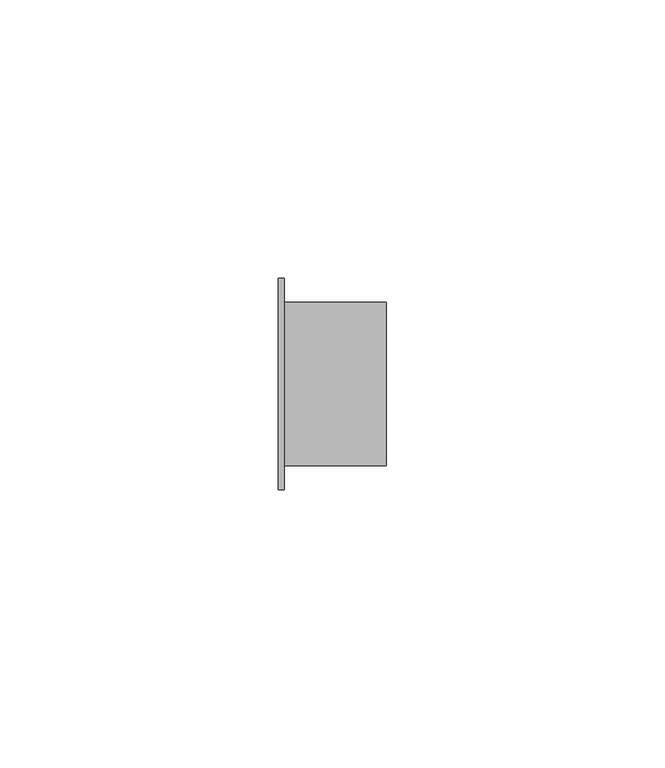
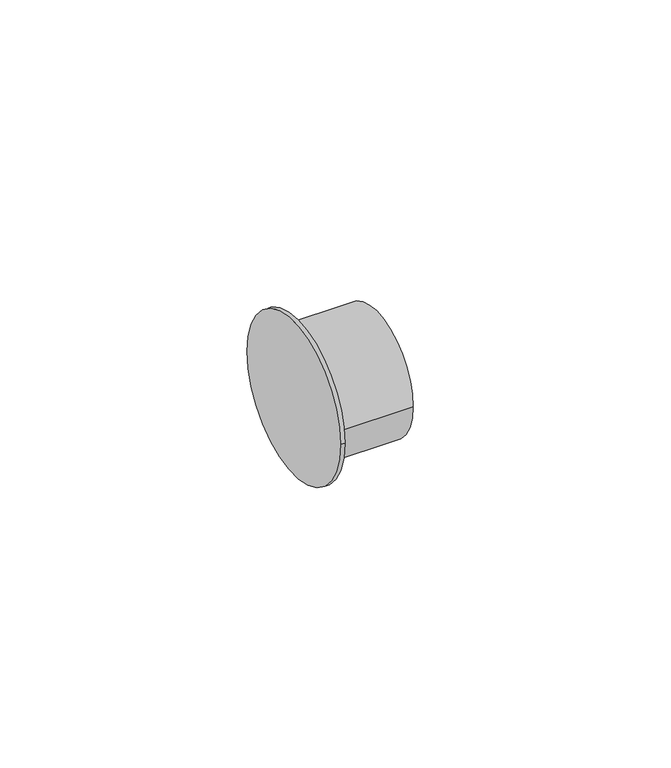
"""IFC4 building model written with IfcOpenShell, lengths in millimetres: pipe fitting geometry, Bucha de redução reta - Soldada - CU : Padrão."""

from ifc_helpers import new_model, si_unit, frame, origin, place, context, project, spatial, circle_curve, source, transform, mapped, element, save
from ifc_brep_helpers import plane_surface, cylinder_surface, advanced_brep


def pipe_fitting_8f6b33cf(model_context):
    return source(origin(), model_context, "Body", "AdvancedBrep", [
        advanced_brep(
        [(0.0, -18.95, 0.0), (0.0, 18.95, 0.0), (1.0, -18.95, 0.0), (1.0, 18.95, 0.0), (1.0, -14.7, 0.0), (1.0, 14.7, 0.0), (19.4, -14.7, 0.0), (19.4, 14.7, 0.0)],
        [
            (0, 1, circle_curve(frame((0.0, 0.0, 0.0), z_axis=(-1.0, 0.0, 0.0), x_axis=(0.0, 1.0, 0.0)), 18.95)),
            (1, 0, circle_curve(frame((0.0, 0.0, 0.0), z_axis=(-1.0, 0.0, 0.0), x_axis=(0.0, 1.0, 0.0)), 18.95)),
            (2, 3, circle_curve(frame((1.0, 0.0, 0.0), z_axis=(1.0, 0.0, 0.0), x_axis=(0.0, 1.0, 0.0)), 18.95)),
            (3, 2, circle_curve(frame((1.0, 0.0, 0.0), z_axis=(1.0, 0.0, 0.0), x_axis=(0.0, 1.0, 0.0)), 18.95)),
            (4, 5, circle_curve(frame((1.0, 0.0, 0.0), z_axis=(-1.0, 0.0, 0.0), x_axis=(0.0, 1.0, 0.0)), 14.7)),
            (5, 4, circle_curve(frame((1.0, 0.0, 0.0), z_axis=(-1.0, 0.0, 0.0), x_axis=(0.0, 1.0, 0.0)), 14.7)),
            (0, 2),
            (3, 1),
            (6, 7, circle_curve(frame((19.4, 0.0, 0.0), z_axis=(1.0, 0.0, 0.0), x_axis=(0.0, 1.0, 0.0)), 14.7)),
            (7, 6, circle_curve(frame((19.4, 0.0, 0.0), z_axis=(1.0, 0.0, 0.0), x_axis=(0.0, 1.0, 0.0)), 14.7)),
            (7, 5),
            (4, 6),
        ],
        [
            plane_surface(frame((0.0, 0.0, 0.0), z_axis=(-1.0, 0.0, 0.0), x_axis=(0.0, 0.0, 1.0))),
            plane_surface(frame((1.0, 0.0, 0.0), z_axis=(1.0, 0.0, 0.0), x_axis=(0.0, 0.0, 1.0))),
            cylinder_surface(frame((0.0, 0.0, 0.0), z_axis=(-1.0, 0.0, 0.0), x_axis=(0.0, 1.0, 0.0)), 18.95),
            plane_surface(frame((19.4, 0.0, 0.0), z_axis=(1.0, 0.0, 0.0), x_axis=(0.0, 0.0, 1.0))),
            cylinder_surface(frame((1.0, 0.0, 0.0), z_axis=(-1.0, 0.0, 0.0), x_axis=(0.0, 1.0, 0.0)), 14.7),
        ],
        [
            (0, [[1, 2]]),
            (1, [[3, 4], [5, 6]]),
            (2, [[-1, 7, -4, 8]]),
            (2, [[-2, -8, -3, -7]]),
            (3, [[9, 10]]),
            (4, [[-10, 11, -5, 12]]),
            (4, [[-9, -12, -6, -11]]),
        ],
    ),
    ])


if __name__ == "__main__":
    model = new_model("IFC4")
    model_context = context("Model", 3, world=origin())
    ifc_project = project(units=[si_unit("LENGTHUNIT", "METRE", prefix="MILLI")], contexts=[model_context])
    site = spatial("IfcSite", under=ifc_project)
    building = spatial("IfcBuilding", under=site)
    placement = place(None, origin())
    pipe_fitting_shape = pipe_fitting_8f6b33cf(model_context)
    element("IfcPipeFitting", 1, ObjectType="Bucha de redução reta - Soldada - CU : Padrão", at=placement, inside=building, context=model_context, shape_type="MappedRepresentation", body=[
        mapped(pipe_fitting_shape, transform((0.0, 0.0, 0.0), x_axis=(1.0, 0.0, 0.0), y_axis=(0.0, 1.0, 0.0), z_axis=(0.0, 0.0, 1.0))),
    ])
    save(model, "model.ifc")
